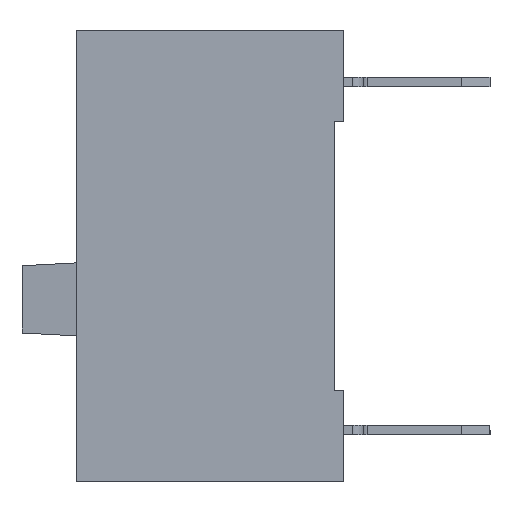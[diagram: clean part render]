
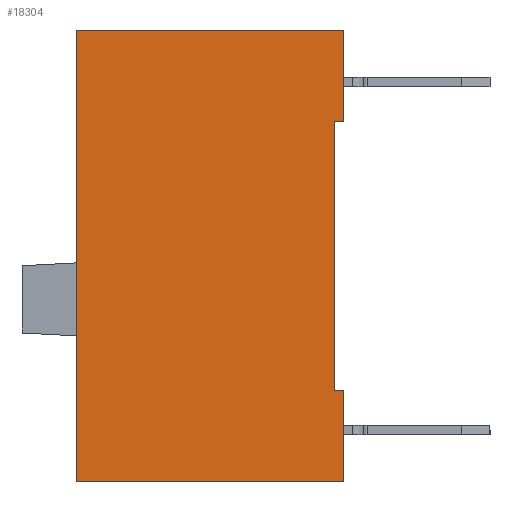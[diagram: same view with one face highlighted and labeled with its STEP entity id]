
A CAD part, left-side view. The second image highlights one B-rep face of the part: STEP entity #18304.
In plain terms, the highlighted planar face has unit normal (-1, 0, 0).
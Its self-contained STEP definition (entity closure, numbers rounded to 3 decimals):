
#224 = CARTESIAN_POINT ( 'NONE',  ( -7.03, 5.85, -4.95 ) ) ;
#787 = LINE ( 'NONE', #14116, #17917 ) ;
#1113 = CARTESIAN_POINT ( 'NONE',  ( -7.03, 0., 2.95 ) ) ;
#1825 = VECTOR ( 'NONE', #22735, 1000. ) ;
#3177 = DIRECTION ( 'NONE',  ( 0., 0., 1. ) ) ;
#3722 = CARTESIAN_POINT ( 'NONE',  ( -7.03, 0., -4.95 ) ) ;
#4160 = CARTESIAN_POINT ( 'NONE',  ( -7.03, 5.85, 4.95 ) ) ;
#6813 = CARTESIAN_POINT ( 'NONE',  ( -7.03, 0., -4.95 ) ) ;
#6823 = VECTOR ( 'NONE', #21235, 1000. ) ;
#7772 = DIRECTION ( 'NONE',  ( 0., 0., -1. ) ) ;
#7946 = CARTESIAN_POINT ( 'NONE',  ( -7.03, 0.2, -2.95 ) ) ;
#8373 = LINE ( 'NONE', #224, #1825 ) ;
#8579 = VECTOR ( 'NONE', #3177, 1000. ) ;
#8868 = DIRECTION ( 'NONE',  ( 0., -1., 0. ) ) ;
#9553 = DIRECTION ( 'NONE',  ( 1., 0., 0. ) ) ;
#10148 = VERTEX_POINT ( 'NONE', #20025 ) ;
#10400 = VERTEX_POINT ( 'NONE', #34100 ) ;
#11160 = EDGE_CURVE ( 'NONE', #18248, #38047, #8373, .T. ) ;
#12235 = CARTESIAN_POINT ( 'NONE',  ( -7.03, 5.85, -4.95 ) ) ;
#13309 = EDGE_CURVE ( 'NONE', #26289, #10400, #30728, .T. ) ;
#14116 = CARTESIAN_POINT ( 'NONE',  ( -7.03, 0.2, 2.95 ) ) ;
#15589 = VERTEX_POINT ( 'NONE', #1113 ) ;
#15758 = ORIENTED_EDGE ( 'NONE', *, *, #41732, .F. ) ;
#15858 = CARTESIAN_POINT ( 'NONE',  ( -7.03, 0., -4.95 ) ) ;
#17145 = LINE ( 'NONE', #15858, #8579 ) ;
#17780 = VECTOR ( 'NONE', #23795, 1000. ) ;
#17917 = VECTOR ( 'NONE', #7772, 1000. ) ;
#18248 = VERTEX_POINT ( 'NONE', #12235 ) ;
#18304 = ADVANCED_FACE ( 'NONE', ( #21231 ), #35192, .F. ) ;
#19465 = ORIENTED_EDGE ( 'NONE', *, *, #24773, .F. ) ;
#19724 = EDGE_CURVE ( 'NONE', #22709, #15589, #35929, .T. ) ;
#20025 = CARTESIAN_POINT ( 'NONE',  ( -7.03, 0.2, -2.95 ) ) ;
#20568 = CARTESIAN_POINT ( 'NONE',  ( -7.03, 0.2, 2.95 ) ) ;
#20768 = DIRECTION ( 'NONE',  ( 0., -1., 0. ) ) ;
#21231 = FACE_OUTER_BOUND ( 'NONE', #32916, .T. ) ;
#21235 = DIRECTION ( 'NONE',  ( 0., -1., 0. ) ) ;
#22709 = VERTEX_POINT ( 'NONE', #31548 ) ;
#22735 = DIRECTION ( 'NONE',  ( 0., 0., 1. ) ) ;
#22959 = LINE ( 'NONE', #24342, #6823 ) ;
#23795 = DIRECTION ( 'NONE',  ( 0., -1., 0. ) ) ;
#24296 = VECTOR ( 'NONE', #20768, 1000. ) ;
#24342 = CARTESIAN_POINT ( 'NONE',  ( -7.03, 5.85, 4.95 ) ) ;
#24591 = ORIENTED_EDGE ( 'NONE', *, *, #33751, .T. ) ;
#24773 = EDGE_CURVE ( 'NONE', #38047, #28161, #22959, .T. ) ;
#25242 = ORIENTED_EDGE ( 'NONE', *, *, #37841, .T. ) ;
#26289 = VERTEX_POINT ( 'NONE', #3722 ) ;
#27475 = AXIS2_PLACEMENT_3D ( 'NONE', #28841, #9553, #32063 ) ;
#28161 = VERTEX_POINT ( 'NONE', #33169 ) ;
#28841 = CARTESIAN_POINT ( 'NONE',  ( -7.03, 5.85, -4.95 ) ) ;
#30728 = LINE ( 'NONE', #6813, #38258 ) ;
#31086 = ORIENTED_EDGE ( 'NONE', *, *, #13309, .T. ) ;
#31263 = CARTESIAN_POINT ( 'NONE',  ( -7.03, 5.85, -4.95 ) ) ;
#31548 = CARTESIAN_POINT ( 'NONE',  ( -7.03, 0.2, 2.95 ) ) ;
#32063 = DIRECTION ( 'NONE',  ( 0., 0., -1. ) ) ;
#32600 = DIRECTION ( 'NONE',  ( 0., 0., 1. ) ) ;
#32916 = EDGE_LOOP ( 'NONE', ( #15758, #34549, #25242, #19465, #35115, #24591, #31086, #33759 ) ) ;
#33169 = CARTESIAN_POINT ( 'NONE',  ( -7.03, 0., 4.95 ) ) ;
#33751 = EDGE_CURVE ( 'NONE', #18248, #26289, #37637, .T. ) ;
#33759 = ORIENTED_EDGE ( 'NONE', *, *, #36771, .F. ) ;
#33895 = LINE ( 'NONE', #7946, #24296 ) ;
#34100 = CARTESIAN_POINT ( 'NONE',  ( -7.03, 0., -2.95 ) ) ;
#34549 = ORIENTED_EDGE ( 'NONE', *, *, #19724, .T. ) ;
#35115 = ORIENTED_EDGE ( 'NONE', *, *, #11160, .F. ) ;
#35192 = PLANE ( 'NONE',  #27475 ) ;
#35929 = LINE ( 'NONE', #20568, #17780 ) ;
#36661 = VECTOR ( 'NONE', #8868, 1000. ) ;
#36771 = EDGE_CURVE ( 'NONE', #10148, #10400, #33895, .T. ) ;
#37637 = LINE ( 'NONE', #31263, #36661 ) ;
#37841 = EDGE_CURVE ( 'NONE', #15589, #28161, #17145, .T. ) ;
#38047 = VERTEX_POINT ( 'NONE', #4160 ) ;
#38258 = VECTOR ( 'NONE', #32600, 1000. ) ;
#41732 = EDGE_CURVE ( 'NONE', #22709, #10148, #787, .T. ) ;
